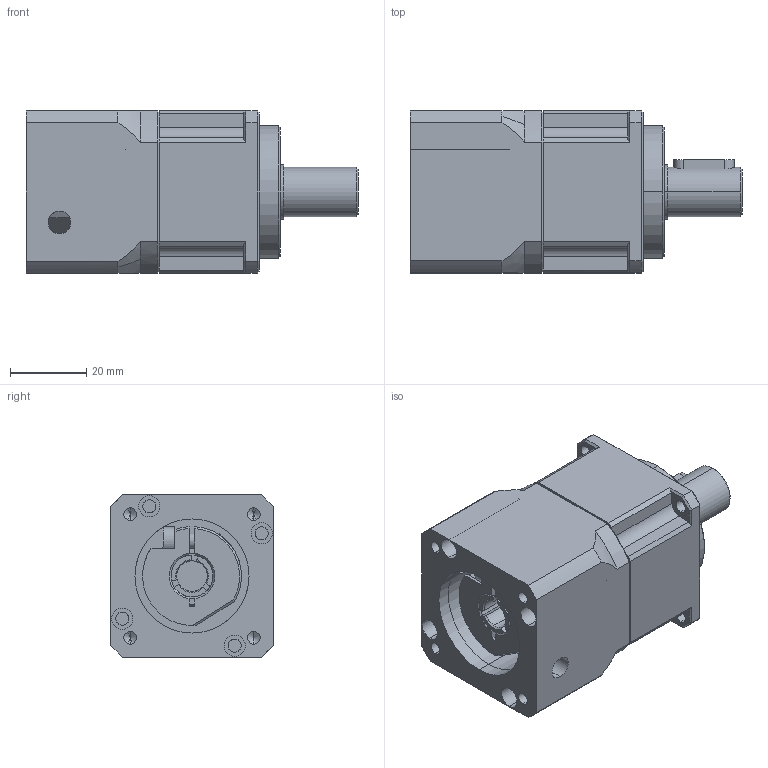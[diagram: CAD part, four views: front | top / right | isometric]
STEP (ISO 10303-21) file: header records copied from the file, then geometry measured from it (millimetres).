
FILE_DESCRIPTION (( 'STEP AP203' ), '1' );
FILE_NAME ('PD42-L1.STEP', '2020-11-25T00:24:18', ( '' ), ( '' ), 'SwSTEP 2.0', 'SolidWorks 2014', '' );
FILE_SCHEMA (( 'CONFIG_CONTROL_DESIGN' ));
Length unit declared in the file: millimetre
Products named in the file (8): M3x12; 旮僱⑩粣創61902-2Z; 5X5X16; PD42-L1; PD42-CQ01（本体齿圈); PD42-WZ01(帣釱)_1123; PD42-CLZ05(喘謫粣); PD42-SJH(坶踡遠)
Assembly tree (7 placements, depth 2):
  PD42-L1
    PD42-CQ01（本体齿圈)
    PD42-WZ01(帣釱)_1123
    PD42-CLZ05(喘謫粣)
    PD42-SJH(坶踡遠)
    M3x12
    旮僱⑩粣創61902-2Z
    5X5X16
Bounding box: 87.3 x 42.6 x 42.6 mm (x, y, z)
Volume: 98567.3 mm3; surface area: 33092.8 mm2
Topology: 7 solids, 7 shells, 462 faces, 1274 edges, 830 vertices
Faces by surface type: cylinder 149, plane 135, sphere 86, cone 49, torus 43
Entity records: 18357 total; most frequent: CARTESIAN_POINT 5756, ORIENTED_EDGE 2528, DIRECTION 2469, EDGE_CURVE 1264, AXIS2_PLACEMENT_3D 1063, VERTEX_POINT 830, CIRCLE 591, EDGE_LOOP 542
